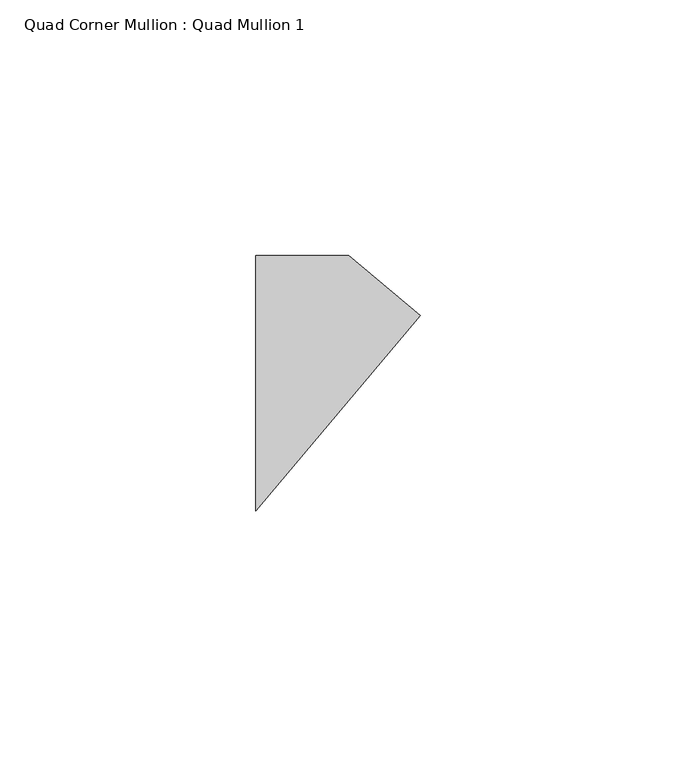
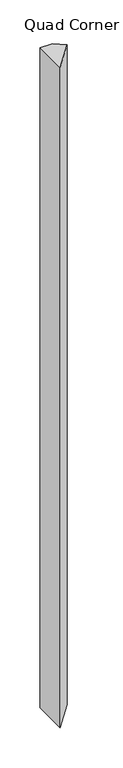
"""IFC4 building model written with IfcOpenShell, lengths in millimetres: member geometry, Quad Corner Mullion : Quad Mullion 1."""

import ifcopenshell
import ifcopenshell.guid

model = None  # the IFC model being written
_history = None  # IfcOwnerHistory: only IFC2X3 demands one
_inside = {}  # id of a spatial element -> (the spatial element, [elements in it])
_under = {}  # id of a project, library or spatial element -> (it, [spatial elements below it])
_declared = {}  # id of a project -> (the project, [libraries it declares])
_typed = {}  # id of a type object -> (the type object, [elements of that type])
_made_of = {}  # id of a material, layer set ... -> (it, [elements and type objects made of it])


def new_model(schema):
    """Start an empty IFC model of exactly this schema.

    Asked for "IFC4X3", IfcOpenShell would pick the latest addendum, in which some entities
    have other attributes; the version numbers below select the first issue.
    IFC2X3 requires an IfcOwnerHistory on every rooted entity: one is made here for all.
    """
    global model, _history
    if schema == "IFC4X3":
        model = ifcopenshell.file(schema_version=(4, 3, 0, 0))
    else:
        model = ifcopenshell.file(schema=schema)
    _inside.clear()
    _under.clear()
    _declared.clear()
    _typed.clear()
    _made_of.clear()
    _history = None
    if model.schema == "IFC2X3":
        org = make("IfcOrganization", Name="unknown")
        user = make(
            "IfcPersonAndOrganization",
            ThePerson=make("IfcPerson", FamilyName="unknown"),
            TheOrganization=org,
        )
        app = make(
            "IfcApplication",
            ApplicationDeveloper=org,
            Version="unknown",
            ApplicationFullName="unknown",
            ApplicationIdentifier="unknown",
        )
        _history = make(
            "IfcOwnerHistory",
            OwningUser=user,
            OwningApplication=app,
            ChangeAction="ADDED",
            CreationDate=0,
        )
    return model


def make(cls, **values):
    """One entity of the class cls with the attributes given. An attribute that is None is left unset."""
    return model.create_entity(
        cls, **{name: value for name, value in values.items() if value is not None}
    )


def rooted(cls, **values):
    """An entity with a GlobalId (a new one), such as an element, a storey or a relation."""
    return make(cls, GlobalId=ifcopenshell.guid.new(), OwnerHistory=_history, **values)


def si_unit(unit_type, name, prefix=None):
    """IfcSIUnit, for example si_unit("LENGTHUNIT", "METRE", prefix="MILLI")."""
    return make("IfcSIUnit", UnitType=unit_type, Prefix=prefix, Name=name)


def assignment(units):
    """IfcUnitAssignment: the units of a project."""
    return None if units is None else make("IfcUnitAssignment", Units=units)


def point(xyz):
    """IfcCartesianPoint."""
    return None if xyz is None else make("IfcCartesianPoint", Coordinates=xyz)


def direction(xyz):
    """IfcDirection."""
    return None if xyz is None else make("IfcDirection", DirectionRatios=xyz)


def frame(location, z_axis=None, x_axis=None):
    """IfcAxis2Placement3D, a coordinate frame: its origin and axes. An axis left out is left unset."""
    return make(
        "IfcAxis2Placement3D",
        Location=point(location),
        Axis=direction(z_axis),
        RefDirection=direction(x_axis),
    )


def origin():
    """The frame at (0, 0, 0) with its axes left unset."""
    return frame((0.0, 0.0, 0.0))


def place(relative_to, where):
    """IfcLocalPlacement: puts the frame where relative to a parent placement (None: the world)."""
    return make(
        "IfcLocalPlacement", PlacementRelTo=relative_to, RelativePlacement=where
    )


def context(
    kind, dimensions, precision=None, world=None, true_north=None, identifier=None
):
    """IfcGeometricRepresentationContext, for example the 3D "Model" context."""
    return make(
        "IfcGeometricRepresentationContext",
        ContextIdentifier=identifier,
        ContextType=kind,
        CoordinateSpaceDimension=dimensions,
        Precision=precision,
        WorldCoordinateSystem=world,
        TrueNorth=true_north,
    )


def project(units=None, contexts=None):
    """IfcProject with its units and contexts."""
    return rooted(
        "IfcProject",
        Name="project",
        RepresentationContexts=contexts,
        UnitsInContext=assignment(units),
    )


def spatial(cls, under=None, at=None, **own):
    """A site, building, storey or space (cls), placed at a placement, below another one or the project."""
    s = rooted(cls, ObjectPlacement=at, **own)
    if under is not None:
        _under.setdefault(under.id(), (under, []))[1].append(s)
    return s


def polyline(points):
    """IfcPolyline through the points."""
    return make("IfcPolyline", Points=[point(p) for p in points])


def outline(outer, holes=None, kind="AREA"):
    """IfcArbitraryClosedProfileDef: a profile drawn as a closed curve; with holes, ...WithVoids."""
    if holes is None:
        return make("IfcArbitraryClosedProfileDef", ProfileType=kind, OuterCurve=outer)
    return make(
        "IfcArbitraryProfileDefWithVoids",
        ProfileType=kind,
        OuterCurve=outer,
        InnerCurves=holes,
    )


def extrude(swept, where, along, depth):
    """IfcExtrudedAreaSolid: the profile swept, set in the frame where, extruded along a direction by depth."""
    return make(
        "IfcExtrudedAreaSolid",
        SweptArea=swept,
        Position=where,
        ExtrudedDirection=direction(along),
        Depth=depth,
    )


def shape(context_of_items, identifier, shape_type, items):
    """IfcShapeRepresentation: the items that make up one representation, for example the "Body"."""
    return make(
        "IfcShapeRepresentation",
        ContextOfItems=context_of_items,
        RepresentationIdentifier=identifier,
        RepresentationType=shape_type,
        Items=items,
    )


def source(mapping_origin, context_of_items, identifier, shape_type, items):
    """IfcRepresentationMap: a shape defined once, which mapped items show again and again."""
    return make(
        "IfcRepresentationMap",
        MappingOrigin=mapping_origin,
        MappedRepresentation=shape(context_of_items, identifier, shape_type, items),
    )


def transform(
    local_origin,
    x_axis=None,
    y_axis=None,
    z_axis=None,
    scale=None,
    scale2=None,
    scale3=None,
    uniform=True,
):
    """IfcCartesianTransformationOperator3D, or its non-uniform kind. x_axis, y_axis, z_axis: its Axis1, 2, 3."""
    if uniform:
        return make(
            "IfcCartesianTransformationOperator3D",
            Axis1=direction(x_axis),
            Axis2=direction(y_axis),
            LocalOrigin=point(local_origin),
            Scale=scale,
            Axis3=direction(z_axis),
        )
    return make(
        "IfcCartesianTransformationOperator3DnonUniform",
        Axis1=direction(x_axis),
        Axis2=direction(y_axis),
        LocalOrigin=point(local_origin),
        Scale=scale,
        Axis3=direction(z_axis),
        Scale2=scale2,
        Scale3=scale3,
    )


def mapped(mapping_source, mapping_target):
    """IfcMappedItem: shows the shape of a source again, moved by a transform."""
    return make(
        "IfcMappedItem", MappingSource=mapping_source, MappingTarget=mapping_target
    )


def made_of(thing, what):
    """Note that an element or type object is made of a material, layer set ...; save() writes the relation."""
    if what is not None:
        _made_of.setdefault(what.id(), (what, []))[1].append(thing)
    return thing


def element(
    cls,
    number,
    at=None,
    inside=None,
    cuts=None,
    type_object=None,
    material=None,
    context=None,
    identifier="Body",
    shape_type=None,
    held_by="IfcProductDefinitionShape",
    body=None,
    shapes=None,
    **own,
):
    """One element of the class cls, such as IfcWall. Its Tag is "e" and its number.

    at: its placement. inside: the storey or other place that contains it. cuts: it is an
    opening in that element (IfcRelVoidsElement). A single representation is given by context,
    identifier, shape_type and body (its items); several are given by shapes. held_by: the class
    of the entity that holds the representations. save() writes the other relations.
    """
    e = rooted(cls, Tag="e%d" % number, ObjectPlacement=at, **own)
    if body is not None:
        shapes = [shape(context, identifier, shape_type, body)]
    if shapes is not None:
        e.Representation = make(held_by, Representations=shapes)
    if inside is not None:
        _inside.setdefault(inside.id(), (inside, []))[1].append(e)
    if cuts is not None:
        rooted(
            "IfcRelVoidsElement", RelatingBuildingElement=cuts, RelatedOpeningElement=e
        )
    if type_object is not None:
        _typed.setdefault(type_object.id(), (type_object, []))[1].append(e)
    return made_of(e, material)


def aggregate(whole, parts):
    """IfcRelAggregates: a whole, such as a stair, and the parts it consists of."""
    return rooted("IfcRelAggregates", RelatingObject=whole, RelatedObjects=parts)


def save(model, path):
    """Write the relations noted so far, then the file.

    IfcRelAggregates (storeys below a building ...), IfcRelContainedInSpatialStructure (elements
    in a storey), IfcRelDefinesByType, IfcRelAssociatesMaterial and IfcRelDeclares: one each for
    every whole, place, type object, material and project.
    """
    for whole, parts in _under.values():
        aggregate(whole, parts)
    for where, things in _inside.values():
        rooted(
            "IfcRelContainedInSpatialStructure",
            RelatedElements=things,
            RelatingStructure=where,
        )
    for kind, things in _typed.values():
        rooted("IfcRelDefinesByType", RelatedObjects=things, RelatingType=kind)
    for what, things in _made_of.values():
        rooted("IfcRelAssociatesMaterial", RelatedObjects=things, RelatingMaterial=what)
    for by, libraries in _declared.values():
        rooted("IfcRelDeclares", RelatingContext=by, RelatedDefinitions=libraries)
    model.write(path)


def quad_corner_mullion_quad_mullion_1_a77e198c(model_context):
    return source(origin(), model_context, "Body", "SweptSolid", [
        extrude(outline(polyline([(23.0401246, 13.3022222), (-9.0992559, -25.0), (-9.0992559, 25.0), (9.0992559, 25.0), (23.0401246, 13.3022222)])), frame((0.0, 0.0, -1000.0), z_axis=(0.0, 0.0, 1.0), x_axis=(1.0, 0.0, 0.0)), (0.0, 0.0, 1.0), 1000.0),
    ])


if __name__ == "__main__":
    model = new_model("IFC4")
    model_context = context("Model", 3, world=origin())
    ifc_project = project(units=[si_unit("LENGTHUNIT", "METRE", prefix="MILLI")], contexts=[model_context])
    site = spatial("IfcSite", under=ifc_project)
    building = spatial("IfcBuilding", under=site)
    placement = place(None, origin())
    quad_corner_mullion_quad_mullion_1_shape = quad_corner_mullion_quad_mullion_1_a77e198c(model_context)
    element("IfcMember", 1, ObjectType="Quad Corner Mullion : Quad Mullion 1", at=placement, inside=building, context=model_context, shape_type="MappedRepresentation", body=[
        mapped(quad_corner_mullion_quad_mullion_1_shape, transform((0.0, 0.0, 0.0), x_axis=(1.0, 0.0, 0.0), y_axis=(0.0, 1.0, 0.0), z_axis=(0.0, 0.0, 1.0))),
    ])
    save(model, "model.ifc")
